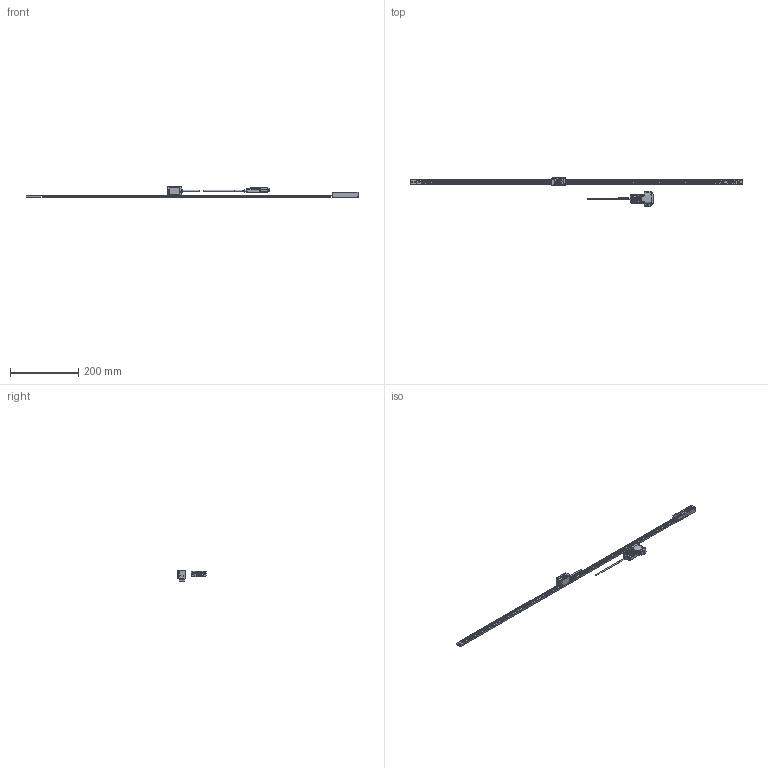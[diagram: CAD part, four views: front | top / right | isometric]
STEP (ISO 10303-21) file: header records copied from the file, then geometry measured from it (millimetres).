
FILE_DESCRIPTION(('Creo Elements/Direct Modeling STEP Export'),'2;1');
FILE_NAME('ST1300-800D.stp','2018-03-01T11:28:22',(''),(''),'Creo Elements/Direct Modeling STEP processor for AP214 (Solid Model)','Creo Elements/Direct Modeling 18.1B 29-Sep-2012 (C) Parametric Technology GmbH','');
FILE_SCHEMA(('AUTOMOTIVE_DESIGN { 1 0 10303 214 1 1 1 1 }'));
Products named in the file (4): Connector; Scale_800; Detector_Head; ST1300-800D
Assembly tree (3 placements, depth 2):
  ST1300-800D
    Detector_Head
    Scale_800
    Connector
Bounding box: 973 x 83 x 30.1 mm (x, y, z)
Volume: 101698.2 mm3; surface area: 73007.7 mm2
Topology: 2 solids, 10 shells, 3550 faces, 9760 edges, 6373 vertices
Faces by surface type: plane 1692, cylinder 1588, extrusion 118, cone 99, torus 26, bspline 23, revolution 4
Entity records: 118625 total; most frequent: CARTESIAN_POINT 27149, ORIENTED_EDGE 19496, DIRECTION 18650, EDGE_CURVE 9744, VERTEX_POINT 6373, AXIS2_PLACEMENT_3D 6326, VECTOR 5992, LINE 5894
